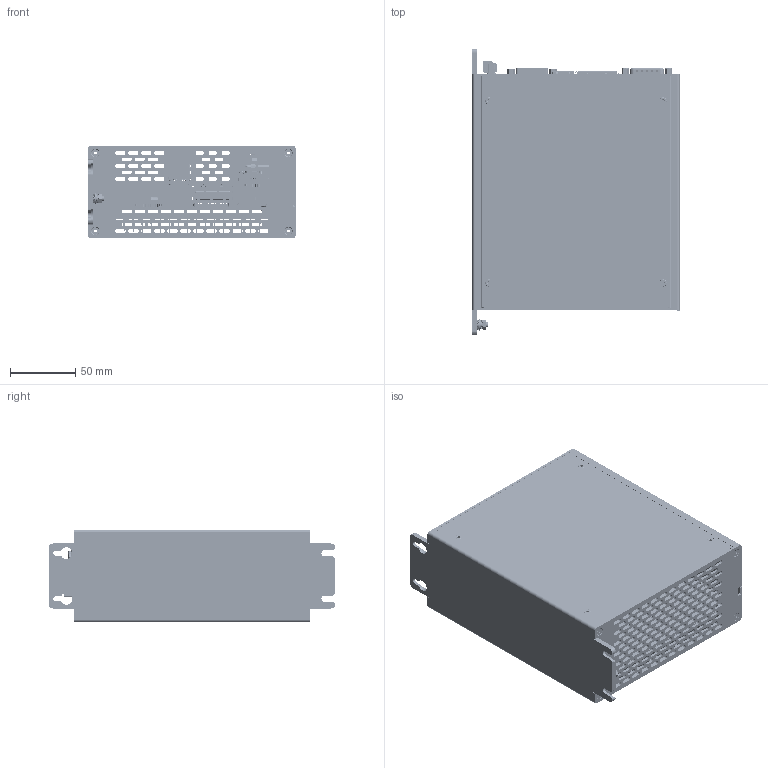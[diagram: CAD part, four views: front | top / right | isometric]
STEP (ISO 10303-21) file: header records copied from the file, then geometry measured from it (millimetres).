
FILE_DESCRIPTION((''),'2;1');
FILE_NAME('93663200_ASM','2019-09-20T',('androm'),(''),'PRO/ENGINEER BY PARAMETRIC TECHNOLOGY CORPORATION, 2013410','PRO/ENGINEER BY PARAMETRIC TECHNOLOGY CORPORATION, 2013410','');
FILE_SCHEMA(('AUTOMOTIVE_DESIGN { 1 0 10303 214 1 1 1 1 }'));
Products named in the file (1): 93663200_ASM
Bounding box: 159.6 x 220 x 71 mm (x, y, z)
Surface area: 360466.6 mm2 (no closed solid volume)
Topology: 0 solids, 573 shells, 5900 faces, 26367 edges, 20484 vertices
Faces by surface type: plane 3791, cylinder 1539, cone 216, bspline 156, torus 144, sphere 36, extrusion 18
Entity records: 321015 total; most frequent: CARTESIAN_POINT 77044, DIRECTION 42489, ORIENTED_EDGE 38834, EDGE_CURVE 26283, VERTEX_POINT 20483, VECTOR 18183, LINE 18165, AXIS2_PLACEMENT_3D 12153
